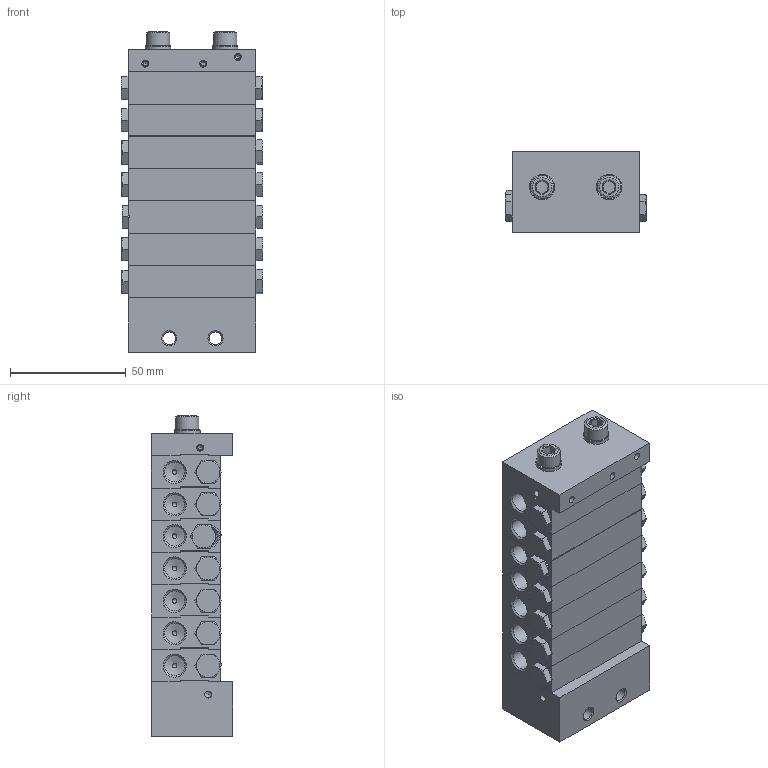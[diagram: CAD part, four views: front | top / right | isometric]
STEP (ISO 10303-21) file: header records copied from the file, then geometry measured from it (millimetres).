
FILE_DESCRIPTION (( 'STEP AP214' ), '1' );
FILE_NAME ('STW_XV_14_Auslässe.STEP', '2025-09-16T11:11:50', ( '' ), ( '' ), 'SwSTEP 2.0', 'SolidWorks 2022', '' );
FILE_SCHEMA (( 'AUTOMOTIVE_DESIGN' ));
Length unit declared in the file: millimetre
Products named in the file (10): STW_XV_MITTEL_1; O_RING_3X1; STW_XV_END; U_Scheibe_6; Verschlussstopfen_1_8; STW_XV_Kolbenanschlag; STW_XV_14_Auslässe; M6X65_DIN_912; STW_XV_Verbindungsstopen; STW_XV_ENGANG
Assembly tree (52 placements, depth 2):
  STW_XV_14_Auslässe
    STW_XV_ENGANG
    O_RING_3X1  x4
    STW_XV_MITTEL_1  x7
    STW_XV_END
    Verschlussstopfen_1_8  x14
    STW_XV_Kolbenanschlag  x14
    STW_XV_Verbindungsstopen  x7
    M6X65_DIN_912  x2
    U_Scheibe_6  x2
Bounding box: 61.32 x 35.03 x 138.48 mm (x, y, z)
Volume: 204822.3 mm3; surface area: 100971.7 mm2
Topology: 52 solids, 52 shells, 2036 faces, 5382 edges, 3448 vertices
Faces by surface type: plane 947, cylinder 562, cone 413, bspline 114
Full cylindrical faces by diameter (mm): 2 x185, 3 x14, 5 x74, 5.5 x2, 5.9 x2, 6 x2, 6.2 x16, 6.4 x2, 6.5 x14, 7 x14, 8 x14, 8.4 x7, 8.6 x35, 9 x15, 9.7 x14, 9.73 x7, 10 x16, 11 x2, 15 x1
Entity records: 29968 total; most frequent: CARTESIAN_POINT 17203, ORIENTED_EDGE 2526, DIRECTION 2101, EDGE_CURVE 1263, VERTEX_POINT 896, EDGE_LOOP 821, AXIS2_PLACEMENT_3D 715, LINE 671
